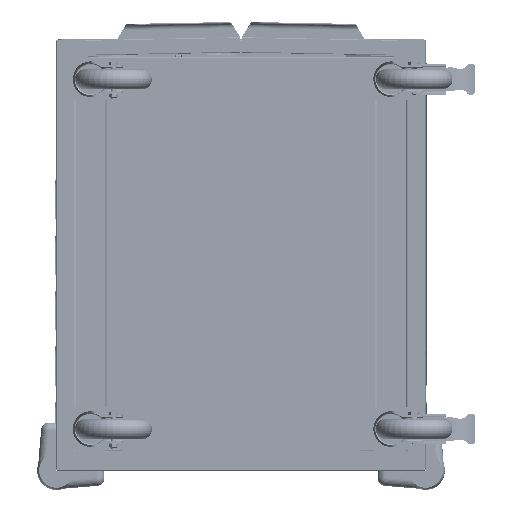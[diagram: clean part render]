
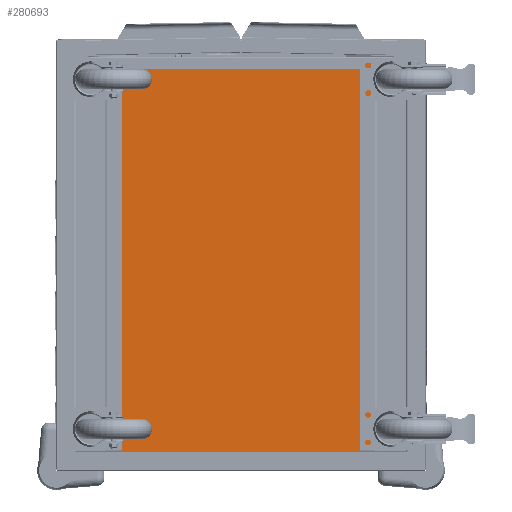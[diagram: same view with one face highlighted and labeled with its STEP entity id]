
A CAD part, front view. The second image highlights one B-rep face of the part: STEP entity #280693.
In plain terms, the highlighted planar face has unit normal (0, -1, 0).
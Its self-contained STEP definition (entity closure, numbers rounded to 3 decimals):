
#16040 = VERTEX_POINT ( 'NONE', #195424 ) ;
#18492 = VERTEX_POINT ( 'NONE', #315530 ) ;
#35466 = EDGE_CURVE ( 'NONE', #18492, #371802, #203250, .T. ) ;
#39700 = ORIENTED_EDGE ( 'NONE', *, *, #35466, .F. ) ;
#51973 = CARTESIAN_POINT ( 'NONE',  ( 269.75, -8.618, -320.15 ) ) ;
#65237 = LINE ( 'NONE', #342774, #356972 ) ;
#73141 = DIRECTION ( 'NONE',  ( 0., 0., 1. ) ) ;
#108217 = CARTESIAN_POINT ( 'NONE',  ( 0., -8.618, 0. ) ) ;
#111411 = DIRECTION ( 'NONE',  ( 0., 0., -1. ) ) ;
#123084 = VECTOR ( 'NONE', #111411, 1000. ) ;
#130551 = EDGE_CURVE ( 'NONE', #371802, #16040, #267116, .T. ) ;
#149115 = VECTOR ( 'NONE', #73141, 1000. ) ;
#165079 = CARTESIAN_POINT ( 'NONE',  ( -269.75, -8.618, -320.15 ) ) ;
#183733 = ORIENTED_EDGE ( 'NONE', *, *, #324110, .F. ) ;
#185720 = AXIS2_PLACEMENT_3D ( 'NONE', #108217, #230703, #198094 ) ;
#195424 = CARTESIAN_POINT ( 'NONE',  ( -269.75, -8.618, -320.15 ) ) ;
#198094 = DIRECTION ( 'NONE',  ( 1., 0., 0. ) ) ;
#203250 = LINE ( 'NONE', #295231, #123084 ) ;
#230703 = DIRECTION ( 'NONE',  ( 0., 1., 0. ) ) ;
#235977 = VECTOR ( 'NONE', #391474, 1000. ) ;
#247307 = PLANE ( 'NONE',  #185720 ) ;
#257017 = LINE ( 'NONE', #165079, #149115 ) ;
#267116 = LINE ( 'NONE', #297710, #235977 ) ;
#280095 = VERTEX_POINT ( 'NONE', #384083 ) ;
#280693 = ADVANCED_FACE ( 'NONE', ( #310440 ), #247307, .F. ) ;
#281630 = DIRECTION ( 'NONE',  ( 1., 0., 0. ) ) ;
#295231 = CARTESIAN_POINT ( 'NONE',  ( 269.75, -8.618, 320.15 ) ) ;
#297710 = CARTESIAN_POINT ( 'NONE',  ( 269.75, -8.618, -320.15 ) ) ;
#301109 = EDGE_CURVE ( 'NONE', #16040, #280095, #257017, .T. ) ;
#310440 = FACE_OUTER_BOUND ( 'NONE', #398125, .T. ) ;
#315530 = CARTESIAN_POINT ( 'NONE',  ( 269.75, -8.618, 320.15 ) ) ;
#324110 = EDGE_CURVE ( 'NONE', #280095, #18492, #65237, .T. ) ;
#342774 = CARTESIAN_POINT ( 'NONE',  ( -269.75, -8.618, 320.15 ) ) ;
#356972 = VECTOR ( 'NONE', #281630, 1000. ) ;
#370753 = ORIENTED_EDGE ( 'NONE', *, *, #301109, .F. ) ;
#371802 = VERTEX_POINT ( 'NONE', #51973 ) ;
#383462 = ORIENTED_EDGE ( 'NONE', *, *, #130551, .F. ) ;
#384083 = CARTESIAN_POINT ( 'NONE',  ( -269.75, -8.618, 320.15 ) ) ;
#391474 = DIRECTION ( 'NONE',  ( -1., 0., 0. ) ) ;
#398125 = EDGE_LOOP ( 'NONE', ( #370753, #383462, #39700, #183733 ) ) ;
